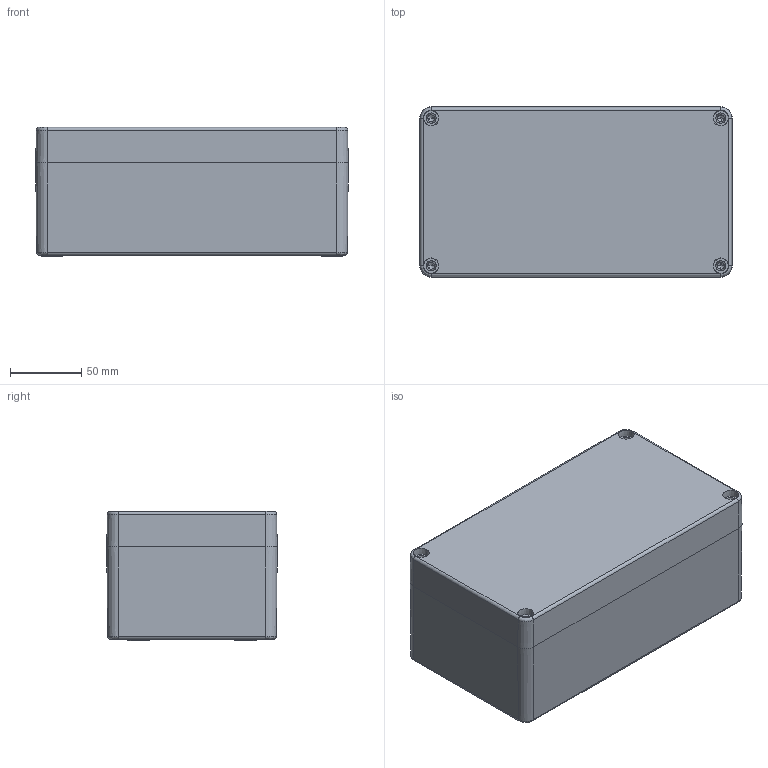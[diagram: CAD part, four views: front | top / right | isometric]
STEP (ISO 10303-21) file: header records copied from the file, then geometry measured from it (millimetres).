
FILE_DESCRIPTION (( 'STEP AP203' ), '1' );
FILE_NAME ('GRP ASSY 22012090.STEP', '2024-08-26T10:41:16', ( '' ), ( '' ), 'SwSTEP 2.0', 'SolidWorks 2018', '' );
FILE_SCHEMA (( 'CONFIG_CONTROL_DESIGN' ));
Length unit declared in the file: millimetre
Products named in the file (5): GRP ASSY 22012090; GRP LID 22012090; M6 SS TOP INSERT; M6 BOTTOM INSERT; GRP BASE 22012090
Assembly tree (12 placements, depth 2):
  GRP ASSY 22012090
    GRP BASE 22012090
    GRP LID 22012090
    M6 BOTTOM INSERT  x6
    M6 SS TOP INSERT  x4
Bounding box: 220 x 120 x 91 mm (x, y, z)
Volume: 582912 mm3; surface area: 237677.3 mm2
Topology: 12 solids, 12 shells, 1503 faces, 3828 edges, 2416 vertices
Faces by surface type: bspline 503, plane 426, cone 264, cylinder 262, torus 48
Entity records: 43559 total; most frequent: CARTESIAN_POINT 17138, ORIENTED_EDGE 6040, DIRECTION 4086, EDGE_CURVE 3020, VERTEX_POINT 1936, VECTOR 1438, LINE 1438, AXIS2_PLACEMENT_3D 1324
